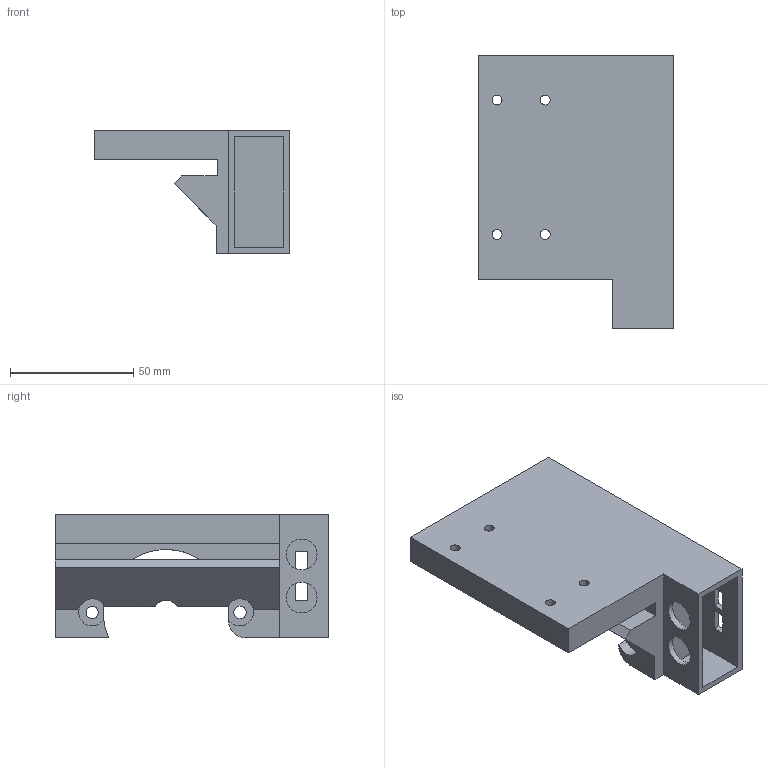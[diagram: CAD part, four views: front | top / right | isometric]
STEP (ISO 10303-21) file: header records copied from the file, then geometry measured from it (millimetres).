
FILE_DESCRIPTION(('FreeCAD Model'),'2;1');
FILE_NAME('/home/mike/Documents/3D/FreeCAD/CNC/STEP/MotorHolderY.step', '2017-05-27T09:33:53',('Author'),(''), 'Open CASCADE STEP processor 6.7','FreeCAD','Unknown');
FILE_SCHEMA(('AUTOMOTIVE_DESIGN_CC2 { 1 2 10303 214 -1 1 5 4 }'));
Length unit declared in the file: millimetre
Products named in the file (1): MotorHolder
Bounding box: 79.5 x 111 x 50 mm (x, y, z)
Volume: 163445.7 mm3; surface area: 37154.3 mm2
Topology: 1 solids, 1 shells, 67 faces, 205 edges, 139 vertices
Faces by surface type: plane 53, cylinder 14
Full cylindrical faces by diameter (mm): 4 x4, 5 x2, 12.5 x2
Entity records: 5510 total; most frequent: CARTESIAN_POINT 1488, DIRECTION 714, LINE 445, VECTOR 445, ORIENTED_EDGE 410, PCURVE 410, DEFINITIONAL_REPRESENTATION 410, EDGE_CURVE 205
